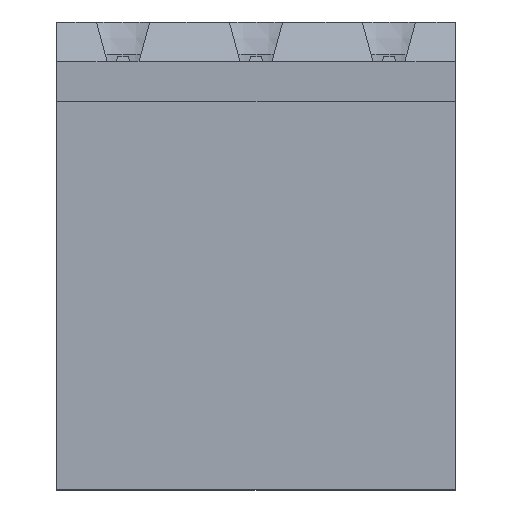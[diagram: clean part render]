
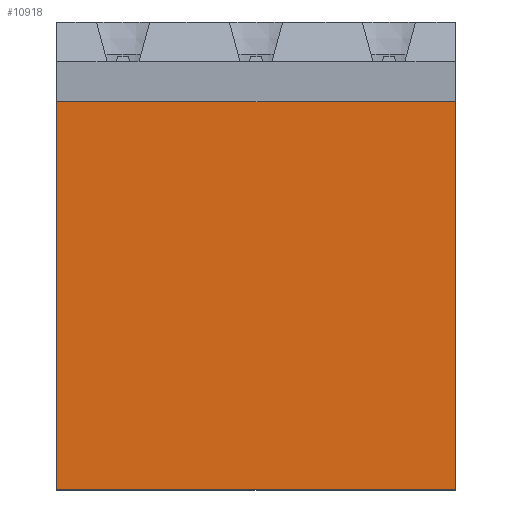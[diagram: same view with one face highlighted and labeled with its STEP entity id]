
A CAD part, top view. The second image highlights one B-rep face of the part: STEP entity #10918.
In plain terms, the highlighted planar face has unit normal (0, 0, 1).
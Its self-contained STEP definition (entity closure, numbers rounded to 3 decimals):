
#5=DIRECTION('',(1.,0.,0.));
#6=VECTOR('',#5,15.);
#7=CARTESIAN_POINT('',(-10.,0.,-0.5));
#8=LINE('',#7,#6);
#1089=DIRECTION('',(0.,1.,0.));
#1090=VECTOR('',#1089,14.6);
#1091=CARTESIAN_POINT('',(5.,0.,-0.5));
#1092=LINE('',#1091,#1090);
#2947=DIRECTION('',(0.,1.,0.));
#2948=VECTOR('',#2947,14.6);
#2949=CARTESIAN_POINT('',(-10.,0.,-0.5));
#2950=LINE('',#2949,#2948);
#2951=DIRECTION('',(-1.,0.,0.));
#2952=VECTOR('',#2951,15.);
#2953=CARTESIAN_POINT('',(5.,14.6,-0.5));
#2954=LINE('',#2953,#2952);
#5675=CARTESIAN_POINT('',(-10.,0.,-0.5));
#5676=VERTEX_POINT('',#5675);
#5677=CARTESIAN_POINT('',(5.,0.,-0.5));
#5678=VERTEX_POINT('',#5677);
#6060=CARTESIAN_POINT('',(5.,14.6,-0.5));
#6061=VERTEX_POINT('',#6060);
#6084=CARTESIAN_POINT('',(-10.,14.6,-0.5));
#6085=VERTEX_POINT('',#6084);
#10906=CARTESIAN_POINT('',(10.,-3.35,-0.5));
#10907=DIRECTION('',(0.,0.,-1.));
#10908=DIRECTION('',(0.,1.,0.));
#10909=AXIS2_PLACEMENT_3D('',#10906,#10907,#10908);
#10910=PLANE('',#10909);
#10911=ORIENTED_EDGE('',*,*,#7189,.F.);
#10912=ORIENTED_EDGE('',*,*,#7962,.T.);
#10914=ORIENTED_EDGE('',*,*,#10913,.F.);
#10915=ORIENTED_EDGE('',*,*,#8669,.F.);
#10916=EDGE_LOOP('',(#10911,#10912,#10914,#10915));
#10917=FACE_OUTER_BOUND('',#10916,.F.);
#10918=ADVANCED_FACE('',(#10917),#10910,.F.);
#7189=EDGE_CURVE('',#5676,#5678,#8,.T.);
#7962=EDGE_CURVE('',#5676,#6085,#2950,.T.);
#8669=EDGE_CURVE('',#5678,#6061,#1092,.T.);
#10913=EDGE_CURVE('',#6061,#6085,#2954,.T.);
